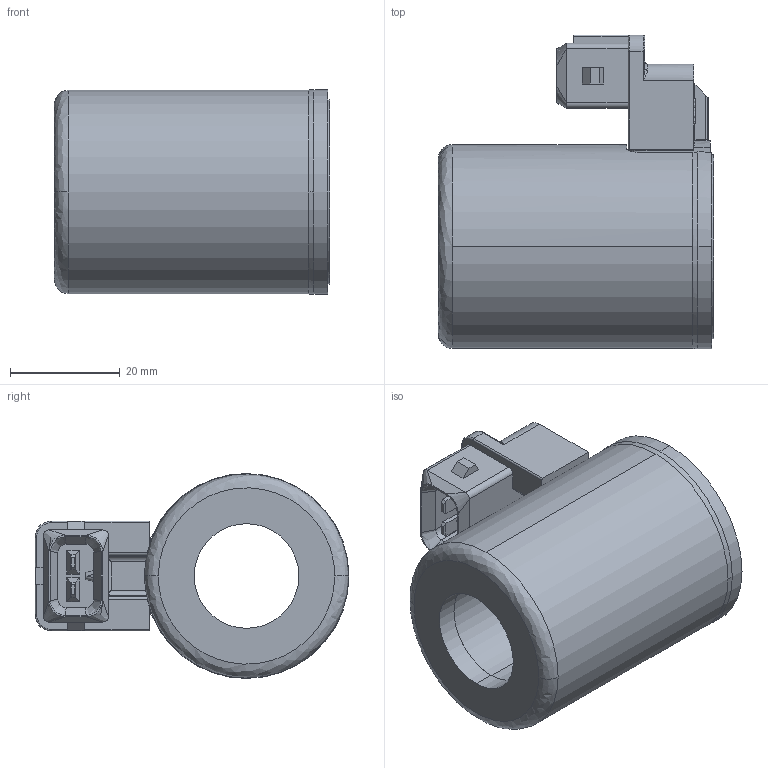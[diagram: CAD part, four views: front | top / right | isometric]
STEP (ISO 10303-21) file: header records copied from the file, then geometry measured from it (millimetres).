
FILE_DESCRIPTION (( 'STEP AP214' ), '1' );
FILE_NAME ('WJS37_19x50.STEP', '2014-03-19T09:15:36', ( '' ), ( '' ), 'SwSTEP 2.0', 'SolidWorks 2012', '' );
FILE_SCHEMA (( 'AUTOMOTIVE_DESIGN' ));
Length unit declared in the file: millimetre
Products named in the file (1): WJS37_19x50
Bounding box: 50.1 x 57.15 x 37.29 mm (x, y, z)
Volume: 44709.3 mm3; surface area: 13282.7 mm2
Topology: 1 solids, 1 shells, 465 faces, 1208 edges, 778 vertices
Faces by surface type: plane 240, cylinder 190, bspline 32, cone 3
Entity records: 16144 total; most frequent: CARTESIAN_POINT 4284, ORIENTED_EDGE 2402, DIRECTION 2338, EDGE_CURVE 1201, AXIS2_PLACEMENT_3D 797, VERTEX_POINT 778, VECTOR 744, LINE 744
